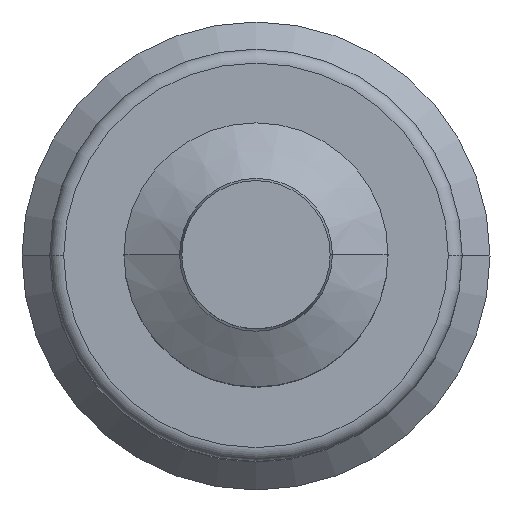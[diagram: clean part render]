
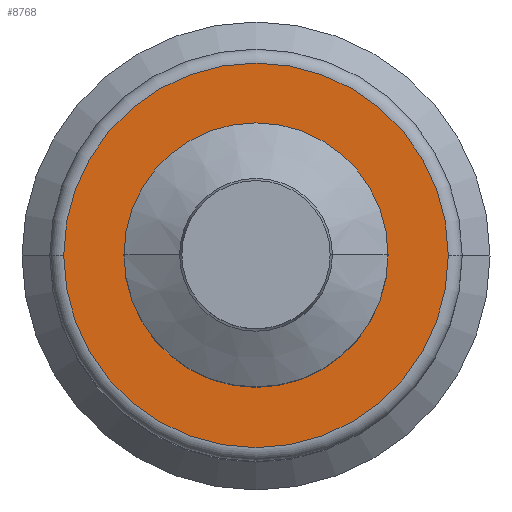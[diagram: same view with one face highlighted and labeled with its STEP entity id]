
A CAD part, top view. The second image highlights one B-rep face of the part: STEP entity #8768.
In plain terms, the highlighted planar face has unit normal (0, 0, 1).
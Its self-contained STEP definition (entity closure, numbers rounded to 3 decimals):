
#1516 = DIRECTION ( 'NONE',  ( 0., 0., 1. ) ) ;
#1536 = CARTESIAN_POINT ( 'NONE',  ( 0., 0., 130. ) ) ;
#1621 = DIRECTION ( 'NONE',  ( 1., 0., 0. ) ) ;
#1649 = DIRECTION ( 'NONE',  ( 0., 0., -1. ) ) ;
#1652 = CARTESIAN_POINT ( 'NONE',  ( 0., 0., 130. ) ) ;
#1674 = DIRECTION ( 'NONE',  ( 1., 0., 0. ) ) ;
#2033 = EDGE_CURVE ( 'NONE', #11066, #10722, #9081, .T. ) ;
#2034 = EDGE_CURVE ( 'NONE', #10695, #10945, #8979, .T. ) ;
#4191 = FACE_BOUND ( 'NONE', #7681, .T. ) ;
#4192 = FACE_OUTER_BOUND ( 'NONE', #7680, .T. ) ;
#4576 = CIRCLE ( 'NONE', #9988, 28.5 ) ;
#5534 = EDGE_CURVE ( 'NONE', #10722, #11066, #4576, .T. ) ;
#5541 = EDGE_CURVE ( 'NONE', #10945, #10695, #7625, .T. ) ;
#6730 = AXIS2_PLACEMENT_3D ( 'NONE', #11215, #10692, #11205 ) ;
#6731 = AXIS2_PLACEMENT_3D ( 'NONE', #10815, #10816, #10817 ) ;
#6845 = CARTESIAN_POINT ( 'NONE',  ( -41.5, 0., 130. ) ) ;
#6871 = CARTESIAN_POINT ( 'NONE',  ( 28.5, 0., 130. ) ) ;
#6948 = CARTESIAN_POINT ( 'NONE',  ( 41.5, 0., 130. ) ) ;
#6995 = CARTESIAN_POINT ( 'NONE',  ( -28.5, 0., 130. ) ) ;
#7184 = DIRECTION ( 'NONE',  ( 1., 0., 0. ) ) ;
#7221 = PLANE ( 'NONE',  #10243 ) ;
#7249 = DIRECTION ( 'NONE',  ( 0., 0., -1. ) ) ;
#7311 = CARTESIAN_POINT ( 'NONE',  ( 0., 0., 130. ) ) ;
#7625 = CIRCLE ( 'NONE', #9991, 41.5 ) ;
#7680 = EDGE_LOOP ( 'NONE', ( #11224, #11221 ) ) ;
#7681 = EDGE_LOOP ( 'NONE', ( #11418, #11469 ) ) ;
#8768 = ADVANCED_FACE ( 'NONE', ( #4191, #4192 ), #7221, .F. ) ;
#8979 = CIRCLE ( 'NONE', #6731, 41.5 ) ;
#9081 = CIRCLE ( 'NONE', #6730, 28.5 ) ;
#9988 = AXIS2_PLACEMENT_3D ( 'NONE', #1536, #1516, #1674 ) ;
#9991 = AXIS2_PLACEMENT_3D ( 'NONE', #1652, #1649, #1621 ) ;
#10243 = AXIS2_PLACEMENT_3D ( 'NONE', #7311, #7249, #7184 ) ;
#10692 = DIRECTION ( 'NONE',  ( 0., 0., 1. ) ) ;
#10695 = VERTEX_POINT ( 'NONE', #6845 ) ;
#10722 = VERTEX_POINT ( 'NONE', #6995 ) ;
#10815 = CARTESIAN_POINT ( 'NONE',  ( 0., 0., 130. ) ) ;
#10816 = DIRECTION ( 'NONE',  ( 0., 0., -1. ) ) ;
#10817 = DIRECTION ( 'NONE',  ( 1., 0., 0. ) ) ;
#10945 = VERTEX_POINT ( 'NONE', #6948 ) ;
#11066 = VERTEX_POINT ( 'NONE', #6871 ) ;
#11205 = DIRECTION ( 'NONE',  ( 1., 0., 0. ) ) ;
#11215 = CARTESIAN_POINT ( 'NONE',  ( 0., 0., 130. ) ) ;
#11221 = ORIENTED_EDGE ( 'NONE', *, *, #2034, .F. ) ;
#11224 = ORIENTED_EDGE ( 'NONE', *, *, #5541, .F. ) ;
#11418 = ORIENTED_EDGE ( 'NONE', *, *, #5534, .F. ) ;
#11469 = ORIENTED_EDGE ( 'NONE', *, *, #2033, .F. ) ;
